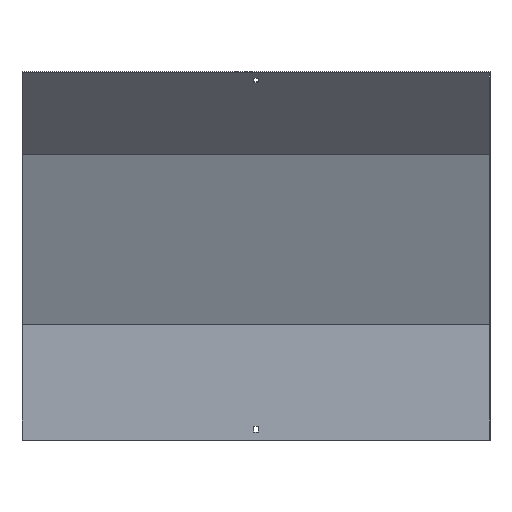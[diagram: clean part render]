
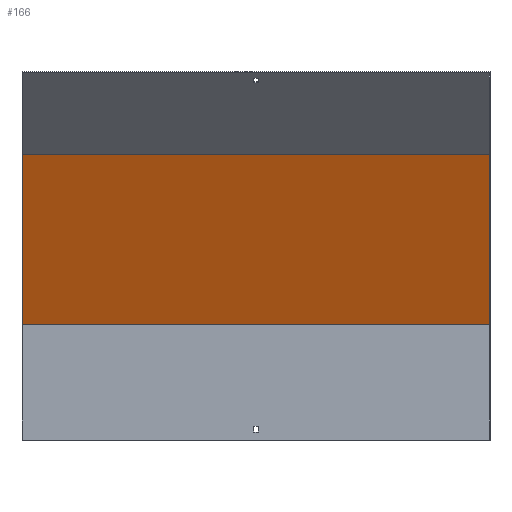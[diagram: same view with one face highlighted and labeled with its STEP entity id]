
A CAD part, front view. The second image highlights one B-rep face of the part: STEP entity #166.
In plain terms, the highlighted planar face has unit normal (0, -0.924, -0.383).
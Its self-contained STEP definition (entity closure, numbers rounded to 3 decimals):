
#10 = DIRECTION ( 'NONE',  ( 0., -0.383, 0.924 ) ) ;
#23 = LINE ( 'NONE', #286, #365 ) ;
#25 = CARTESIAN_POINT ( 'NONE',  ( -350., -87.258, 429.003 ) ) ;
#55 = CARTESIAN_POINT ( 'NONE',  ( 351.5, 18.5, 173.68 ) ) ;
#74 = CARTESIAN_POINT ( 'NONE',  ( 350., -87.258, 429.003 ) ) ;
#99 = DIRECTION ( 'NONE',  ( 0., -0.924, -0.383 ) ) ;
#118 = CARTESIAN_POINT ( 'NONE',  ( 351.5, -87.258, 429.003 ) ) ;
#166 = ADVANCED_FACE ( 'NONE', ( #777 ), #179, .T. ) ;
#168 = DIRECTION ( 'NONE',  ( 0., 0.383, -0.924 ) ) ;
#174 = EDGE_CURVE ( 'NONE', #177, #609, #824, .T. ) ;
#177 = VERTEX_POINT ( 'NONE', #489 ) ;
#179 = PLANE ( 'NONE',  #477 ) ;
#185 = LINE ( 'NONE', #118, #504 ) ;
#198 = ORIENTED_EDGE ( 'NONE', *, *, #174, .F. ) ;
#221 = VECTOR ( 'NONE', #239, 1000. ) ;
#231 = VECTOR ( 'NONE', #10, 1000. ) ;
#239 = DIRECTION ( 'NONE',  ( -1., 0., 0. ) ) ;
#286 = CARTESIAN_POINT ( 'NONE',  ( 350., 77.196, 31.976 ) ) ;
#324 = EDGE_CURVE ( 'NONE', #177, #522, #23, .T. ) ;
#365 = VECTOR ( 'NONE', #546, 1000. ) ;
#372 = CARTESIAN_POINT ( 'NONE',  ( 351.5, 17.092, 177.08 ) ) ;
#378 = DIRECTION ( 'NONE',  ( -1., 0., 0. ) ) ;
#389 = EDGE_CURVE ( 'NONE', #522, #629, #185, .T. ) ;
#477 = AXIS2_PLACEMENT_3D ( 'NONE', #372, #99, #168 ) ;
#481 = EDGE_CURVE ( 'NONE', #609, #629, #527, .T. ) ;
#483 = ORIENTED_EDGE ( 'NONE', *, *, #324, .T. ) ;
#487 = EDGE_LOOP ( 'NONE', ( #724, #198, #483, #587 ) ) ;
#489 = CARTESIAN_POINT ( 'NONE',  ( 350., 18.5, 173.68 ) ) ;
#504 = VECTOR ( 'NONE', #378, 1000. ) ;
#517 = CARTESIAN_POINT ( 'NONE',  ( -350., 77.196, 31.976 ) ) ;
#522 = VERTEX_POINT ( 'NONE', #74 ) ;
#527 = LINE ( 'NONE', #517, #231 ) ;
#546 = DIRECTION ( 'NONE',  ( 0., -0.383, 0.924 ) ) ;
#557 = CARTESIAN_POINT ( 'NONE',  ( -350., 18.5, 173.68 ) ) ;
#587 = ORIENTED_EDGE ( 'NONE', *, *, #389, .T. ) ;
#609 = VERTEX_POINT ( 'NONE', #557 ) ;
#629 = VERTEX_POINT ( 'NONE', #25 ) ;
#724 = ORIENTED_EDGE ( 'NONE', *, *, #481, .F. ) ;
#777 = FACE_OUTER_BOUND ( 'NONE', #487, .T. ) ;
#824 = LINE ( 'NONE', #55, #221 ) ;
